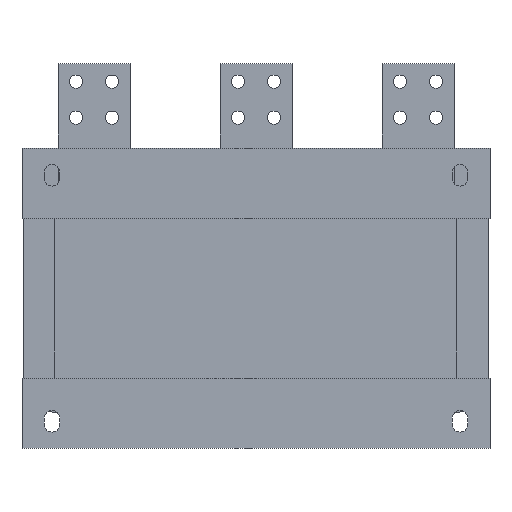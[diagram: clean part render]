
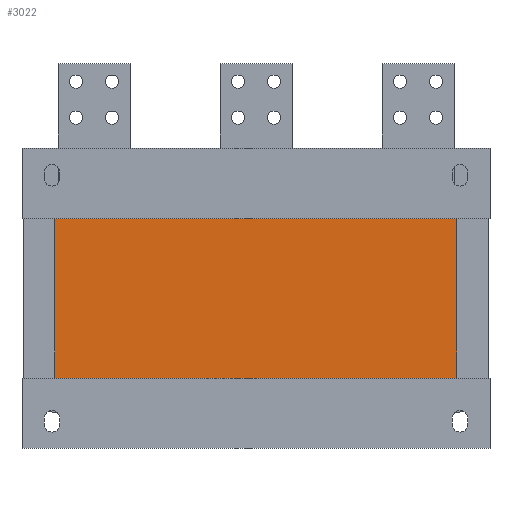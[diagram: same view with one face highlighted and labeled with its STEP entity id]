
A CAD part, front view. The second image highlights one B-rep face of the part: STEP entity #3022.
In plain terms, the highlighted planar face has unit normal (0, -1, 0).
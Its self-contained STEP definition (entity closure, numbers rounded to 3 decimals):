
#128=PLANE('',#3294);
#270=FACE_OUTER_BOUND('',#472,.T.);
#472=EDGE_LOOP('',(#2473,#2474,#2475,#2476));
#722=LINE('',#4799,#1038);
#723=LINE('',#4801,#1039);
#724=LINE('',#4803,#1040);
#725=LINE('',#4804,#1041);
#1038=VECTOR('',#3926,10.);
#1039=VECTOR('',#3927,10.);
#1040=VECTOR('',#3928,10.);
#1041=VECTOR('',#3929,10.);
#1489=VERTEX_POINT('',#4797);
#1490=VERTEX_POINT('',#4798);
#1491=VERTEX_POINT('',#4800);
#1492=VERTEX_POINT('',#4802);
#1854=EDGE_CURVE('',#1489,#1490,#722,.T.);
#1855=EDGE_CURVE('',#1491,#1489,#723,.T.);
#1856=EDGE_CURVE('',#1492,#1491,#724,.T.);
#1857=EDGE_CURVE('',#1490,#1492,#725,.T.);
#2473=ORIENTED_EDGE('',*,*,#1854,.F.);
#2474=ORIENTED_EDGE('',*,*,#1855,.F.);
#2475=ORIENTED_EDGE('',*,*,#1856,.F.);
#2476=ORIENTED_EDGE('',*,*,#1857,.F.);
#3022=ADVANCED_FACE('',(#270),#128,.F.);
#3294=AXIS2_PLACEMENT_3D('',#4796,#3924,#3925);
#3924=DIRECTION('center_axis',(0.,1.,0.));
#3925=DIRECTION('ref_axis',(0.,0.,1.));
#3926=DIRECTION('',(1.,0.,0.));
#3927=DIRECTION('',(0.,0.,1.));
#3928=DIRECTION('',(-1.,0.,0.));
#3929=DIRECTION('',(0.,0.,-1.));
#4796=CARTESIAN_POINT('Origin',(0.,2.,0.));
#4797=CARTESIAN_POINT('',(-167.5,2.,66.5));
#4798=CARTESIAN_POINT('',(167.5,2.,66.5));
#4799=CARTESIAN_POINT('',(167.5,2.,66.5));
#4800=CARTESIAN_POINT('',(-167.5,2.,-66.5));
#4801=CARTESIAN_POINT('',(-167.5,2.,-33.25));
#4802=CARTESIAN_POINT('',(167.5,2.,-66.5));
#4803=CARTESIAN_POINT('',(-167.5,2.,-66.5));
#4804=CARTESIAN_POINT('',(167.5,2.,33.25));
